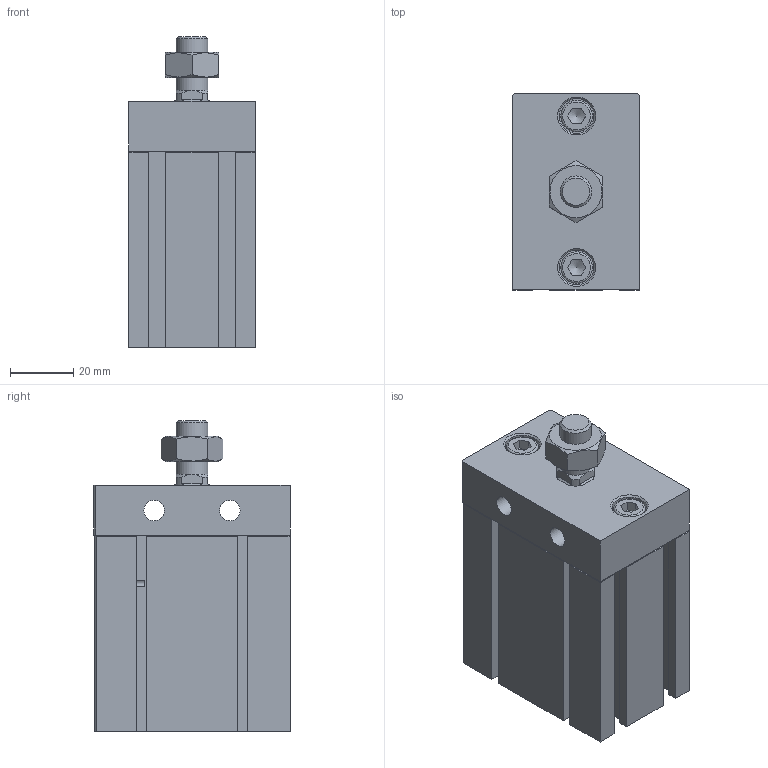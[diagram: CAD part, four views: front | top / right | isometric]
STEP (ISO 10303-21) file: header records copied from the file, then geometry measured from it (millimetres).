
FILE_DESCRIPTION((''),'2;1');
FILE_NAME('I:\3D電子目錄\氣缸\ND\ND\ND32-B\ND32x30-B.stp','2007-07-24T20:11:45',('Administrator'),(''),'Autodesk Inventor 11','Autodesk Inventor 11','');
FILE_SCHEMA(('AUTOMOTIVE_DESIGN { 1 0 10303 214 1 1 1 1 }'));
Length unit declared in the file: millimetre
Products named in the file (4): ND32-B; R 形環 34; ISO 4762 M6 x 16
Assembly tree (4 placements, depth 2):
  ND32-B
    ND32-B
    R 形環 34
    ISO 4762 M6 x 16  x2
Bounding box: 40 x 62.1 x 98.5 mm (x, y, z)
Volume: 172011.3 mm3; surface area: 37009 mm2
Topology: 5 solids, 5 shells, 205 faces, 501 edges, 319 vertices
Faces by surface type: plane 141, cylinder 27, cone 20, bspline 14, torus 3
Full cylindrical faces by diameter (mm): 1.9 x2, 2.2 x2, 6 x2, 6.5 x2, 10 x4, 11 x2, 23 x1, 34 x1, 36 x1
Entity records: 5531 total; most frequent: CARTESIAN_POINT 1147, DIRECTION 860, ORIENTED_EDGE 844, EDGE_CURVE 422, VECTOR 302, LINE 302, VERTEX_POINT 292, AXIS2_PLACEMENT_3D 279
